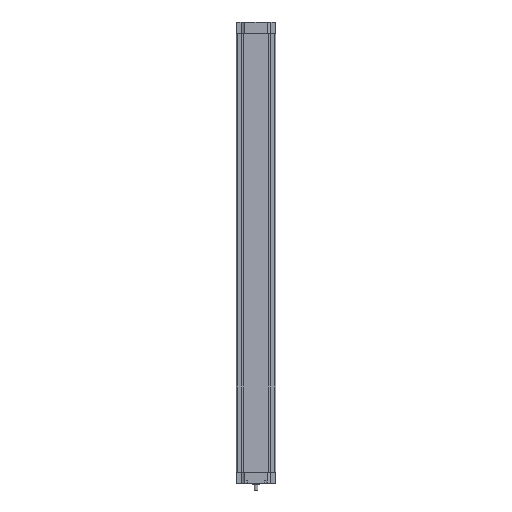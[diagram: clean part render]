
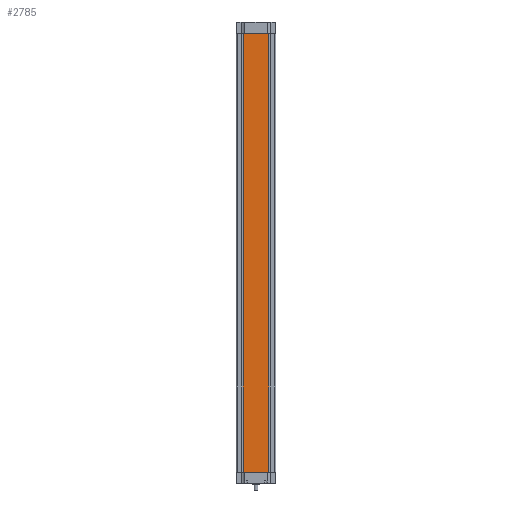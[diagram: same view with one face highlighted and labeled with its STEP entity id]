
A CAD part, front view. The second image highlights one B-rep face of the part: STEP entity #2785.
In plain terms, the highlighted planar face has unit normal (0, -1, 0).
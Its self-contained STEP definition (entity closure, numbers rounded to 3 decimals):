
#1576 = VERTEX_POINT ( 'NONE', #6392 ) ;
#1651 = EDGE_CURVE ( 'NONE', #1576, #1655, #6489, .T. ) ;
#1655 = VERTEX_POINT ( 'NONE', #6544 ) ;
#2394 = VERTEX_POINT ( 'NONE', #7799 ) ;
#2400 = EDGE_CURVE ( 'NONE', #2402, #2394, #7798, .T. ) ;
#2402 = VERTEX_POINT ( 'NONE', #7842 ) ;
#2740 = EDGE_CURVE ( 'NONE', #1576, #2402, #8415, .T. ) ;
#2785 = ADVANCED_FACE ( 'NONE', ( #8464 ), #8456, .F. ) ;
#2787 = ORIENTED_EDGE ( 'NONE', *, *, #1651, .F. ) ;
#2788 = ORIENTED_EDGE ( 'NONE', *, *, #2806, .F. ) ;
#2791 = ORIENTED_EDGE ( 'NONE', *, *, #2740, .T. ) ;
#2798 = ORIENTED_EDGE ( 'NONE', *, *, #2400, .T. ) ;
#2799 = EDGE_LOOP ( 'NONE', ( #2798, #2788, #2787, #2791 ) ) ;
#2806 = EDGE_CURVE ( 'NONE', #1655, #2394, #8459, .T. ) ;
#6392 = CARTESIAN_POINT ( 'NONE',  ( -65., -48.75, 2220. ) ) ;
#6486 = DIRECTION ( 'NONE',  ( 1., 0., 0. ) ) ;
#6487 = VECTOR ( 'NONE', #6486, 1000. ) ;
#6488 = CARTESIAN_POINT ( 'NONE',  ( -65., -48.75, 2220. ) ) ;
#6489 = LINE ( 'NONE', #6488, #6487 ) ;
#6544 = CARTESIAN_POINT ( 'NONE',  ( 65., -48.75, 2220. ) ) ;
#7797 = CARTESIAN_POINT ( 'NONE',  ( -65., -48.75, 0. ) ) ;
#7798 = LINE ( 'NONE', #7797, #7839 ) ;
#7799 = CARTESIAN_POINT ( 'NONE',  ( 65., -48.75, 0. ) ) ;
#7838 = DIRECTION ( 'NONE',  ( 1., 0., 0. ) ) ;
#7839 = VECTOR ( 'NONE', #7838, 1000. ) ;
#7842 = CARTESIAN_POINT ( 'NONE',  ( -65., -48.75, 0. ) ) ;
#8404 = DIRECTION ( 'NONE',  ( 0., 0., -1. ) ) ;
#8405 = VECTOR ( 'NONE', #8404, 1000. ) ;
#8414 = CARTESIAN_POINT ( 'NONE',  ( -65., -48.75, 2220. ) ) ;
#8415 = LINE ( 'NONE', #8414, #8405 ) ;
#8456 = PLANE ( 'NONE',  #8466 ) ;
#8458 = CARTESIAN_POINT ( 'NONE',  ( 65., -48.75, 2220. ) ) ;
#8459 = LINE ( 'NONE', #8458, #8492 ) ;
#8464 = FACE_OUTER_BOUND ( 'NONE', #2799, .T. ) ;
#8466 = AXIS2_PLACEMENT_3D ( 'NONE', #8476, #8513, #8512 ) ;
#8476 = CARTESIAN_POINT ( 'NONE',  ( -65., -48.75, 2220. ) ) ;
#8491 = DIRECTION ( 'NONE',  ( 0., 0., -1. ) ) ;
#8492 = VECTOR ( 'NONE', #8491, 1000. ) ;
#8512 = DIRECTION ( 'NONE',  ( -1., 0., 0. ) ) ;
#8513 = DIRECTION ( 'NONE',  ( 0., 1., 0. ) ) ;
